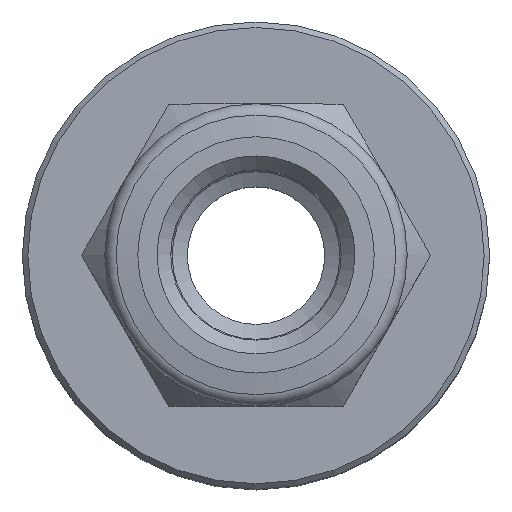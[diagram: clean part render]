
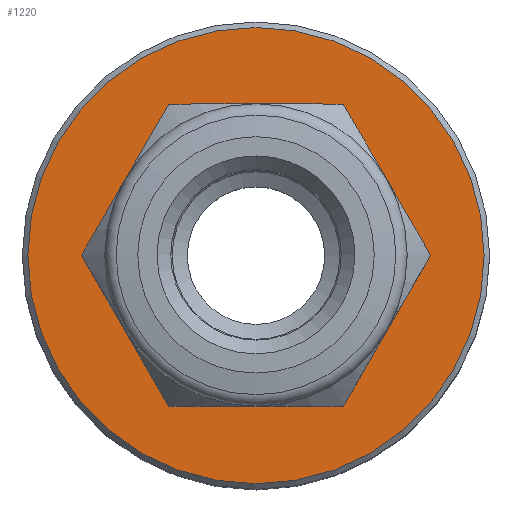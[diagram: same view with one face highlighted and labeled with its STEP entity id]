
A CAD part, top view. The second image highlights one B-rep face of the part: STEP entity #1220.
In plain terms, the highlighted planar face has unit normal (0, 0, 1).
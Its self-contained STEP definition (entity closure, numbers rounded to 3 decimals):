
#1220=ADVANCED_FACE('', (#1230,#1240), #1250, .T.);
#4390=AXIS2_PLACEMENT_3D('Ax2Pl3d', #4400, #4410, #4420);
#4430=AXIS2_PLACEMENT_3D('Ax2Pl3d', #4440, #4450, #4460);
#4400=CARTESIAN_POINT('HicPkt', (10.759,19.579,
18.822));
#4440=CARTESIAN_POINT('HicPkt', (10.759,11.279,
18.822));
#6780=CARTESIAN_POINT('', (10.759,19.579,18.822));
#6790=CARTESIAN_POINT('', (7.584,16.779,18.822));
#6800=CARTESIAN_POINT('', (13.934,16.779,18.822));
#6810=CARTESIAN_POINT('', (7.584,16.779,18.822));
#6820=CARTESIAN_POINT('', (13.934,16.779,18.822));
#6830=CARTESIAN_POINT('', (17.11,11.279,18.822));
#6840=CARTESIAN_POINT('', (17.11,11.279,18.822));
#6850=CARTESIAN_POINT('', (13.934,5.779,18.822));
#6860=CARTESIAN_POINT('', (13.934,5.779,18.822));
#6870=CARTESIAN_POINT('', (7.584,5.779,18.822));
#6880=CARTESIAN_POINT('', (7.584,5.779,18.822));
#6890=CARTESIAN_POINT('', (4.408,11.279,18.822));
#6900=CARTESIAN_POINT('', (4.408,11.279,18.822));
#7440=CIRCLE('Circle', #4430, 8.3);
#4410=DIRECTION('Axis', (0.,0.,1.));
#4420=DIRECTION('RefDirection', (1.,0.,-0.));
#4450=DIRECTION('Axis', (0.,0.,1.));
#4460=DIRECTION('RefDirection', (1.,0.,-0.));
#9730=DIRECTION('', (-1.,0.,0.));
#9740=DIRECTION('', (-0.5,0.866,0.));
#9750=DIRECTION('', (0.5,0.866,0.));
#9760=DIRECTION('', (1.,0.,0.));
#9770=DIRECTION('', (0.5,-0.866,0.));
#9780=DIRECTION('', (-0.5,-0.866,0.));
#10430=EDGE_CURVE('', #10440, #10440, #7440, .T.);
#10450=EDGE_CURVE('', #10460, #10470, #10480, .T.);
#10490=EDGE_CURVE('', #10500, #10460, #10510, .T.);
#10520=EDGE_CURVE('', #10530, #10500, #10540, .T.);
#10550=EDGE_CURVE('', #10560, #10530, #10570, .T.);
#10580=EDGE_CURVE('', #10590, #10560, #10600, .T.);
#10610=EDGE_CURVE('', #10470, #10590, #10620, .T.);
#12250=EDGE_LOOP('Edge_loop', (#12260));
#12270=EDGE_LOOP('Edge_loop', (#12280,#12290,#12300,#12310,#12320,
#12330));
#1240=FACE_BOUND('', #12270, .T.);
#1230=FACE_OUTER_BOUND('Face_outer_bound', #12250, .T.);
#10480=LINE('Line', #6790, #13770);
#10510=LINE('Line', #6820, #13780);
#10540=LINE('Line', #6840, #13790);
#10570=LINE('Line', #6860, #13800);
#10600=LINE('Line', #6880, #13810);
#10620=LINE('Line', #6900, #13820);
#12260=ORIENTED_EDGE('', *, *, #10430, .T.);
#12280=ORIENTED_EDGE('', *, *, #10450, .F.);
#12290=ORIENTED_EDGE('', *, *, #10490, .F.);
#12300=ORIENTED_EDGE('', *, *, #10520, .F.);
#12310=ORIENTED_EDGE('', *, *, #10550, .F.);
#12320=ORIENTED_EDGE('', *, *, #10580, .F.);
#12330=ORIENTED_EDGE('', *, *, #10610, .F.);
#1250=PLANE('Plane', #4390);
#13770=VECTOR('', #9730, 6.351);
#13780=VECTOR('', #9740, 6.351);
#13790=VECTOR('', #9750, 6.351);
#13800=VECTOR('', #9760, 6.351);
#13810=VECTOR('', #9770, 6.351);
#13820=VECTOR('', #9780, 6.351);
#10440=VERTEX_POINT('', #6780);
#10460=VERTEX_POINT('', #6800);
#10470=VERTEX_POINT('', #6810);
#10500=VERTEX_POINT('', #6830);
#10530=VERTEX_POINT('', #6850);
#10560=VERTEX_POINT('', #6870);
#10590=VERTEX_POINT('', #6890);
